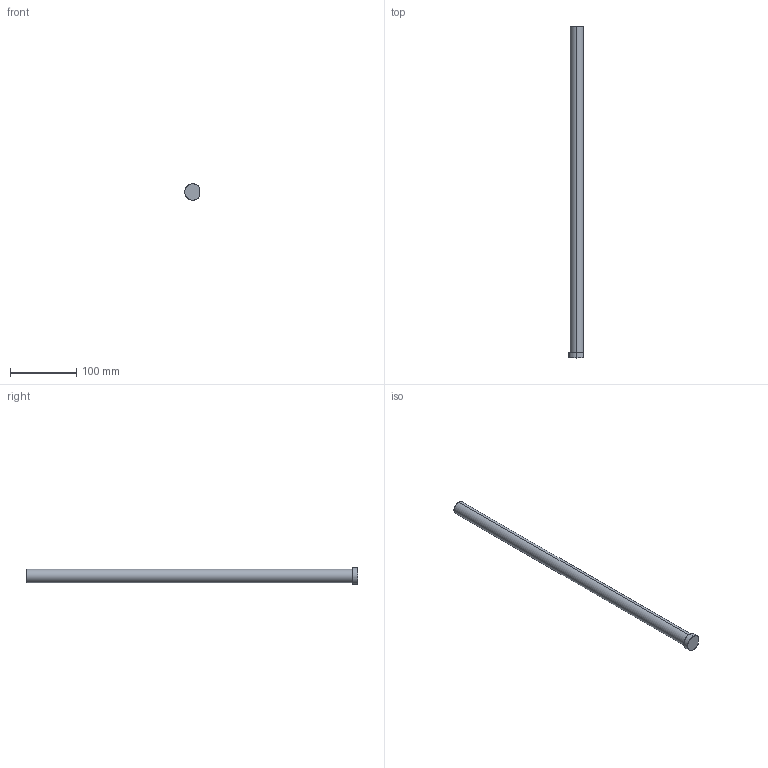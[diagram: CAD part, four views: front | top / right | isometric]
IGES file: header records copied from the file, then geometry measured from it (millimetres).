
Start section: SolidWorks IGES file using analytic representation for surfaces
Global section: file name: C:\Users\365admin\AppData\Local\Temp\InFlowConvert3DWorking\EPJ20L500-K.igs; native system: SolidWorks 2019; preprocessor: SolidWorks 2019; author: 365admin; date: 220405.082628; units: millimetre
Bounding box: 22.5 x 500 x 25 mm (x, y, z)
Surface area: 32441 mm2 (no closed solid volume)
Topology: 0 solids, 0 shells, 18 faces, 211 edges, 211 vertices
Faces by surface type: revolution 11, bspline 7
